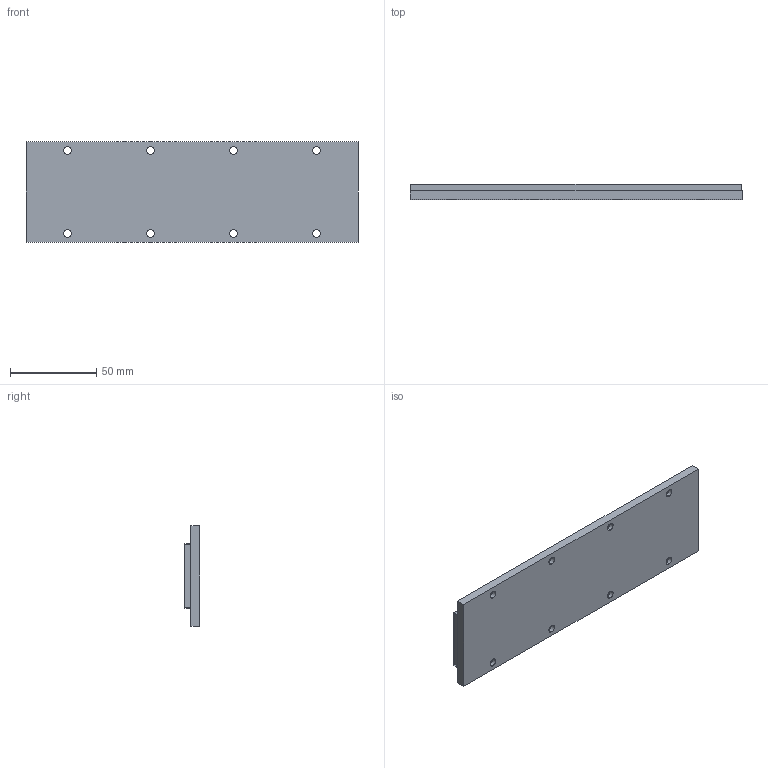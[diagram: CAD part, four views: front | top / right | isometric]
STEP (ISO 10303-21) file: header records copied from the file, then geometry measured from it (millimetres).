
FILE_DESCRIPTION (( 'STEP AP203' ), '1' );
FILE_NAME ('CS192.STEP', '2025-12-28T08:02:07', ( '' ), ( '' ), 'SwSTEP 2.0', 'SolidWorks 2024', '' );
FILE_SCHEMA (( 'CONFIG_CONTROL_DESIGN' ));
Length unit declared in the file: millimetre
Products named in the file (1): CS192
Bounding box: 192 x 8.7 x 58 mm (x, y, z)
Volume: 79961.2 mm3; surface area: 29976.6 mm2
Topology: 1 solids, 1 shells, 93 faces, 224 edges, 144 vertices
Faces by surface type: plane 45, cylinder 36, bspline 12
Entity records: 3035 total; most frequent: CARTESIAN_POINT 770, ORIENTED_EDGE 448, DIRECTION 436, EDGE_CURVE 224, AXIS2_PLACEMENT_3D 154, VERTEX_POINT 144, VECTOR 128, LINE 128
